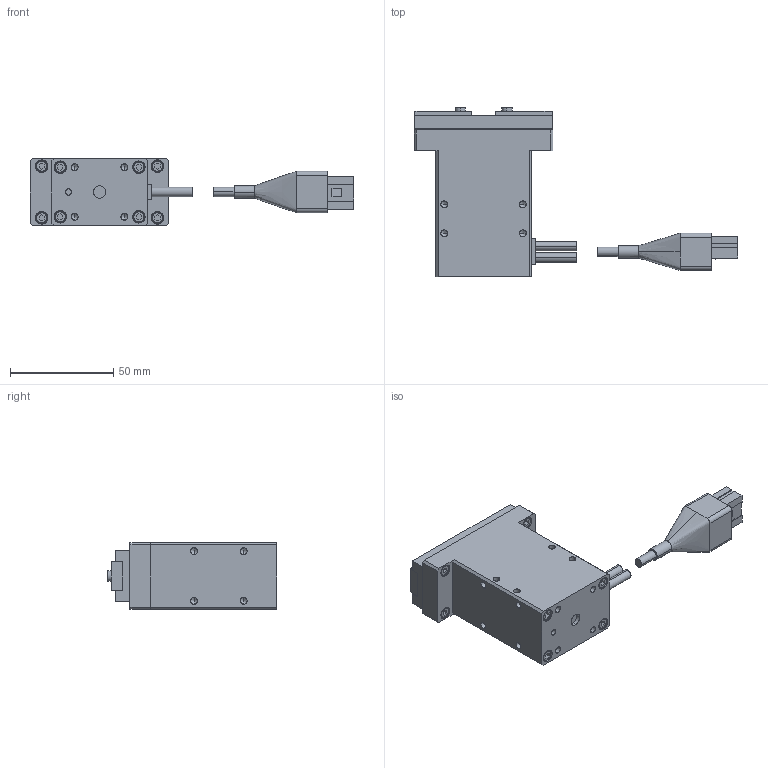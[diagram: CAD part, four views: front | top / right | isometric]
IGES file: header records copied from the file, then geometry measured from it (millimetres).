
Start section: SolidWorks IGES file using analytic representation for surfaces
Global section: file name: G:\SW2007図面\TAIYO\電動機器３Ｄ\電動グリッパ　２爪\ESG1-SD-2810.IGS; native system: SolidWorks 2007; preprocessor: SolidWorks 2007; author: 風音庵,,1; organization: 1; date: 090212.172321; units: millimetre
Bounding box: 156.39 x 82 x 32 mm (x, y, z)
Surface area: 30441.3 mm2 (no closed solid volume)
Topology: 0 solids, 0 shells, 410 faces, 4274 edges, 4234 vertices
Faces by surface type: bspline 246, revolution 164
